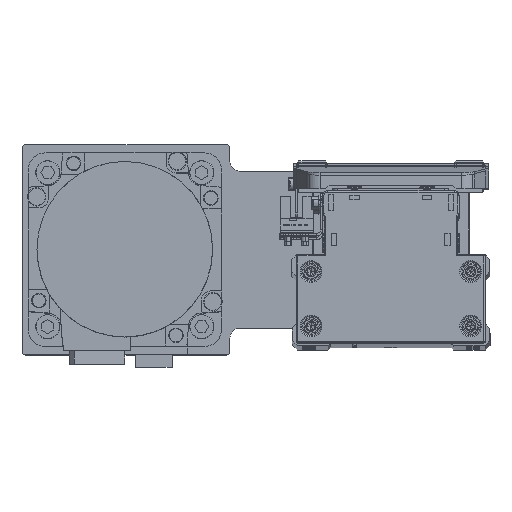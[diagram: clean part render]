
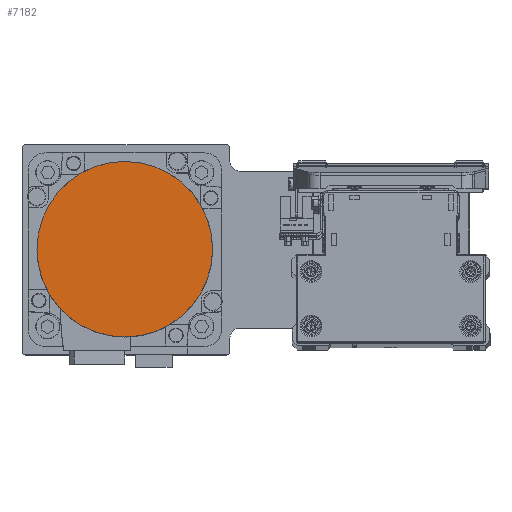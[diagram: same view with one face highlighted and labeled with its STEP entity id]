
A CAD part, top view. The second image highlights one B-rep face of the part: STEP entity #7182.
In plain terms, the highlighted planar face has unit normal (0, 0, 1) as drawn and (0, 0, -1) by its records, which use the part's own axes.
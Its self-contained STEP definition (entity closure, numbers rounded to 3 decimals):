
#2049 = VERTEX_POINT ( 'NONE', #16227 ) ;
#6035 = DIRECTION ( 'NONE',  ( 0., 1., 0. ) ) ;
#7182 = ADVANCED_FACE ( 'NONE', ( #38541 ), #10734, .F. ) ;
#7709 = DIRECTION ( 'NONE',  ( 1., 0., 0. ) ) ;
#9330 = CIRCLE ( 'NONE', #32021, 36.3 ) ;
#10165 = EDGE_LOOP ( 'NONE', ( #23379, #36573 ) ) ;
#10332 = DIRECTION ( 'NONE',  ( 0., 0., 1. ) ) ;
#10734 = PLANE ( 'NONE',  #12615 ) ;
#12615 = AXIS2_PLACEMENT_3D ( 'NONE', #23119, #35510, #7709 ) ;
#12821 = CARTESIAN_POINT ( 'NONE',  ( 0., 36.3, -122.2 ) ) ;
#13169 = AXIS2_PLACEMENT_3D ( 'NONE', #38151, #10332, #22706 ) ;
#13731 = VERTEX_POINT ( 'NONE', #12821 ) ;
#16227 = CARTESIAN_POINT ( 'NONE',  ( 0., -36.3, -122.2 ) ) ;
#21442 = CARTESIAN_POINT ( 'NONE',  ( 0., 0., -122.2 ) ) ;
#22706 = DIRECTION ( 'NONE',  ( 0., -1., 0. ) ) ;
#23119 = CARTESIAN_POINT ( 'NONE',  ( 0., 0., -122.2 ) ) ;
#23379 = ORIENTED_EDGE ( 'NONE', *, *, #37569, .F. ) ;
#23857 = EDGE_CURVE ( 'NONE', #2049, #13731, #30661, .T. ) ;
#30661 = CIRCLE ( 'NONE', #13169, 36.3 ) ;
#32021 = AXIS2_PLACEMENT_3D ( 'NONE', #21442, #33820, #6035 ) ;
#33820 = DIRECTION ( 'NONE',  ( 0., 0., 1. ) ) ;
#35510 = DIRECTION ( 'NONE',  ( 0., 0., 1. ) ) ;
#36573 = ORIENTED_EDGE ( 'NONE', *, *, #23857, .F. ) ;
#37569 = EDGE_CURVE ( 'NONE', #13731, #2049, #9330, .T. ) ;
#38151 = CARTESIAN_POINT ( 'NONE',  ( 0., 0., -122.2 ) ) ;
#38541 = FACE_OUTER_BOUND ( 'NONE', #10165, .T. ) ;
